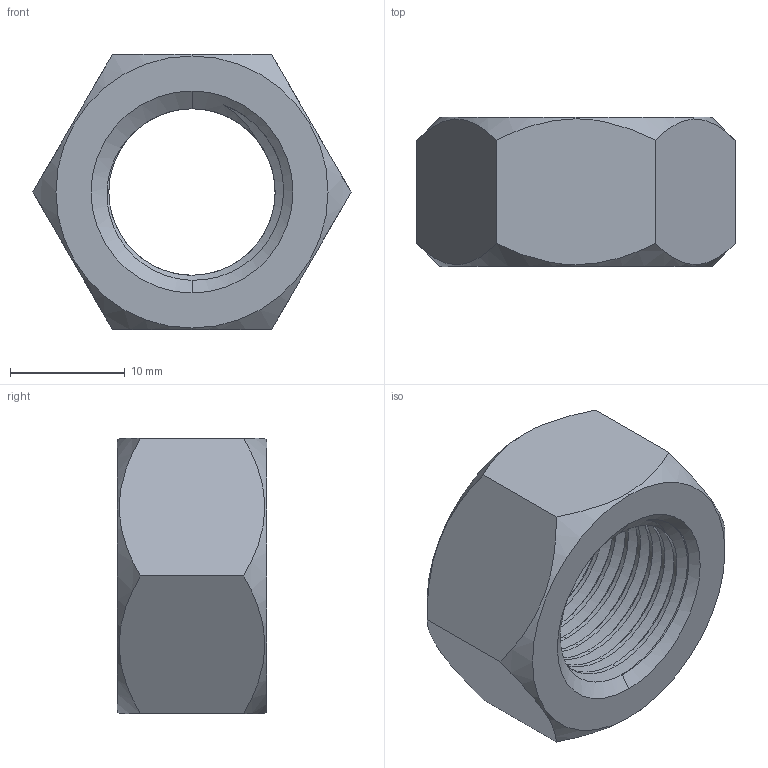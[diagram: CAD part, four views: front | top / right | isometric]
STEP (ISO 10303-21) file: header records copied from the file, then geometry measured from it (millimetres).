
FILE_DESCRIPTION (( 'STEP AP203' ), '1' );
FILE_NAME ('TANRM-304-M16x1.5.STEP', '2026-08-21T14:44:02', ( '' ), ( '' ), 'SwSTEP 2.0', 'SolidWorks 2020', '' );
FILE_SCHEMA (( 'CONFIG_CONTROL_DESIGN' ));
Length unit declared in the file: millimetre
Products named in the file (1): TANRM-304-M16x1.5
Bounding box: 27.71 x 13 x 24 mm (x, y, z)
Volume: 3998.9 mm3; surface area: 2538.9 mm2
Topology: 1 solids, 1 shells, 35 faces, 98 edges, 65 vertices
Faces by surface type: cylinder 16, cone 8, plane 8, bspline 3
Entity records: 2974 total; most frequent: CARTESIAN_POINT 2138, ORIENTED_EDGE 196, DIRECTION 117, EDGE_CURVE 98, VERTEX_POINT 65, AXIS2_PLACEMENT_3D 44, EDGE_LOOP 37, ADVANCED_FACE 35
